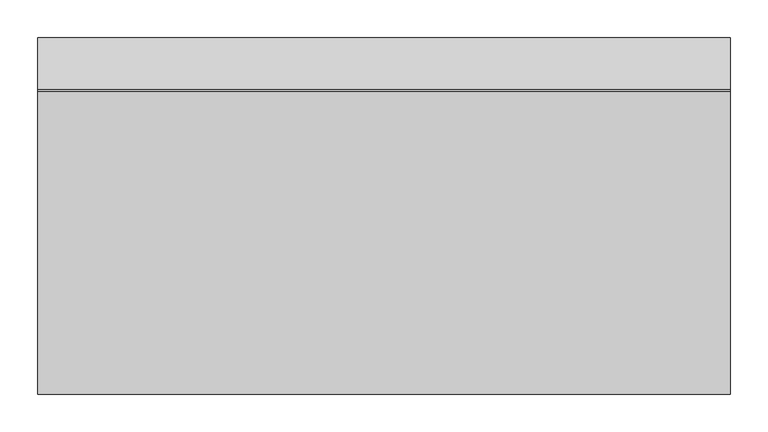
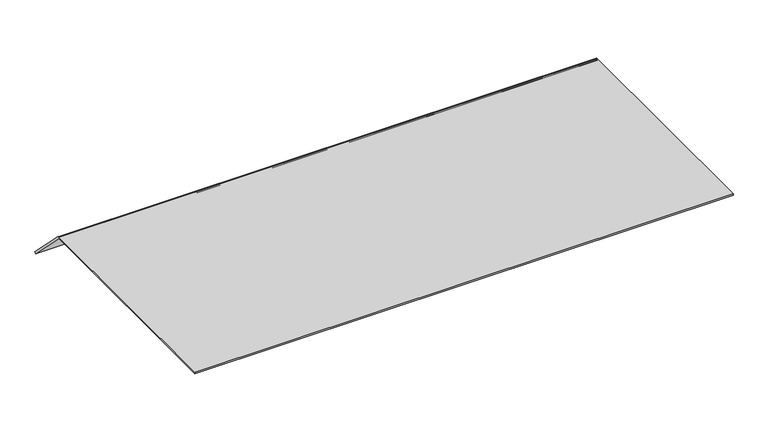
"""IFC4 building model written with IfcOpenShell, lengths in millimetres: proxy geometry, Electrical_Installation_Hager_Blank-Cover-800mm-Single-Sided-Height-70mm : Electrical_Installation_Hager_Blank-Cover-800mm-Single-Sided-Height-70mm."""

from ifc_helpers import new_model, si_unit, point, frame, frame_2d, origin, place, context, project, spatial, polyline, circle_curve, trimmed, segment, composite_curve, outline, extrude, source, transform, mapped, element, save


def electrical_fixtures_12f8da98(model_context):
    return source(origin(), model_context, "Body", "SweptSolid", [
        extrude(outline(composite_curve([segment(polyline([(-200.0, 40.5), (200.0110025, 40.5)]), True, "CONTINUOUS"), segment(trimmed(circle_curve(frame_2d((200.0110025, 36.5265623)), 3.9734377), [point((200.0110025, 40.5))], [point((202.8206472, 39.336207))], False, "CARTESIAN"), True, "CONTINUOUS"), segment(polyline([(202.8206472, 39.336207), (270.78408, -28.6272257), (268.6627596, -30.7485461), (200.8322972, 37.0819164)]), True, "CONTINUOUS"), segment(trimmed(circle_curve(frame_2d((199.8229541, 36.0725733)), 1.4274267), [point((200.8322972, 37.0819164))], [point((199.8229541, 37.5))], True, "CARTESIAN"), True, "CONTINUOUS"), segment(polyline([(199.8229541, 37.5), (-200.0, 37.5), (-200.0, 40.5)]), True, "CONTINUOUS")], self_intersect=False)), frame((0.0, 0.0, 0.0), z_axis=(1.0, 0.0, 0.0), x_axis=(0.0, 1.0, 0.0)), (0.0, 0.0, 1.0), 915.1070114),
    ])


if __name__ == "__main__":
    model = new_model("IFC4")
    model_context = context("Model", 3, world=origin())
    ifc_project = project(units=[si_unit("LENGTHUNIT", "METRE", prefix="MILLI")], contexts=[model_context])
    site = spatial("IfcSite", under=ifc_project)
    building = spatial("IfcBuilding", under=site)
    placement = place(None, origin())
    electrical_fixtures_shape = electrical_fixtures_12f8da98(model_context)
    element("IfcBuildingElementProxy", 1, Name="Electrical_Installation_Hager_Blank-Cover-800mm-Single-Sided-Height-70mm : Electrical_Installation_Hager_Blank-Cover-800mm-Single-Sided-Height-70mm", ObjectType="Electrical_Installation_Hager_Blank-Cover-800mm-Single-Sided-Height-70mm : Electrical_Installation_Hager_Blank-Cover-800mm-Single-Sided-Height-70mm", at=placement, inside=building, context=model_context, shape_type="MappedRepresentation", body=[
        mapped(electrical_fixtures_shape, transform((0.0, 0.0, 0.0), x_axis=(1.0, 0.0, 0.0), y_axis=(0.0, 1.0, 0.0), z_axis=(0.0, 0.0, 1.0))),
    ])
    save(model, "model.ifc")
